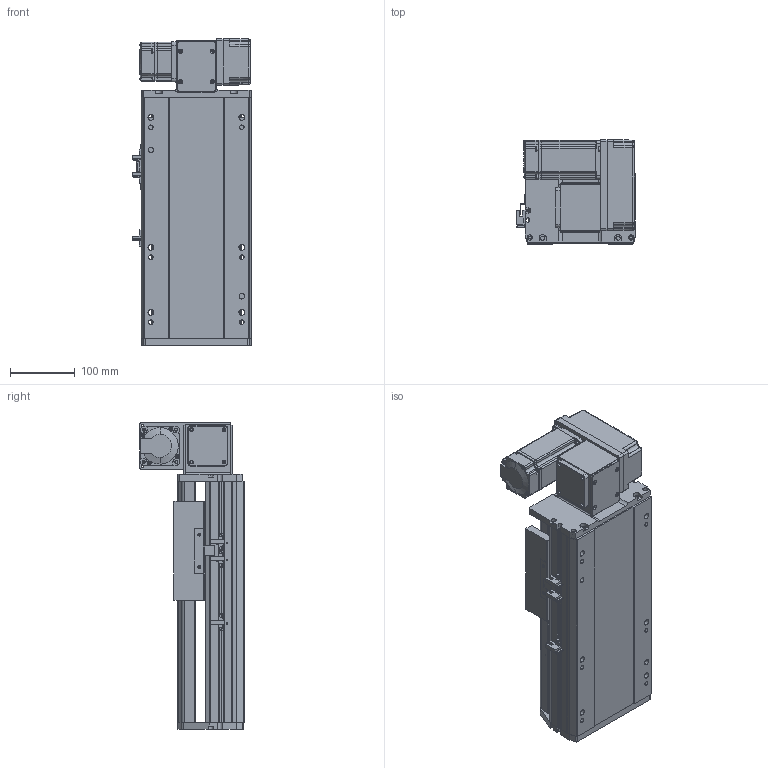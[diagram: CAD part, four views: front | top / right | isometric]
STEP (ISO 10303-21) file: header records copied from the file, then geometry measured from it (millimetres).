
FILE_DESCRIPTION (( 'STEP AP214' ), '1' );
FILE_NAME ('RTB17S-XX-100-RW-M40-C4.STEP', '2025-12-11T08:48:15', ( '' ), ( '' ), 'SwSTEP 2.0', 'SolidWorks 2018', '' );
FILE_SCHEMA (( 'AUTOMOTIVE_DESIGN' ));
Length unit declared in the file: millimetre
Products named in the file (14): RTH13-BL-012覜茼え俋离^RTB17S-XX-XX-RW-M40-C4; RTB17S-XX-100-RW-M40-C4; OMRON EE-SX672 传感器^RTB17S-XX-XX-RW-M40-C4; RTB14-L-017P^RTB17S-RW-々湍釱蚾饜-400W_RTB17S-XX-XX-RW-M40-C4; RTB17S-L-004佪裝蹟譫蟀諉釱^RTB17S-XX-XX-RW-M40-C4; RTB14-L-018P^RTB17S-RW-々湍釱蚾饜-400W_RTB17S-XX-XX-RW-M40-C4; 400W侜督萇儂^RTB17S-XX-XX-RW-M40-C4; RTB14-L-005P--轴承塑胶压盖^RTB17S-RW-皮带座装配-400W_RTB17S-XX-XX-RW-M40-C4; RTB14-L-008-M20--萇儂啣^RTB17S-RW-々湍釱蚾饜-400W_RTB17S-XX-XX-RW-M40-C4; RTB17S-L-001耜醱啣^RTB17S-XX-XX-RW-M40-C4; RTB17-R-011菁釱^RTB17S-XX-XX-RW-M40-C4; RMP17S-L-014-T20--々湍釱^RTB17S-RW-々湍釱蚾饜-400W_RTB17S-XX-XX-RW-M40-C4; RTB17S-L-007奻裔^RTB17S-XX-XX-RW-M40-C4; RTB17S-RW-々湍釱蚾饜-400W^RTB17S-XX-XX-RW-M40-C4
Assembly tree (16 placements, depth 3):
  RTB17S-XX-100-RW-M40-C4
    RTB17-R-011菁釱^RTB17S-XX-XX-RW-M40-C4
    RTB17S-L-007奻裔^RTB17S-XX-XX-RW-M40-C4
    OMRON EE-SX672 传感器^RTB17S-XX-XX-RW-M40-C4  x3
    RTB17S-L-001耜醱啣^RTB17S-XX-XX-RW-M40-C4
    400W侜督萇儂^RTB17S-XX-XX-RW-M40-C4
    RTB17S-L-004佪裝蹟譫蟀諉釱^RTB17S-XX-XX-RW-M40-C4
    RTH13-BL-012覜茼え俋离^RTB17S-XX-XX-RW-M40-C4
    RTB17S-RW-々湍釱蚾饜-400W^RTB17S-XX-XX-RW-M40-C4
      RMP17S-L-014-T20--々湍釱^RTB17S-RW-々湍釱蚾饜-400W_RTB17S-XX-XX-RW-M40-C4
      RTB14-L-005P--轴承塑胶压盖^RTB17S-RW-皮带座装配-400W_RTB17S-XX-XX-RW-M40-C4
      RTB14-L-008-M20--萇儂啣^RTB17S-RW-々湍釱蚾饜-400W_RTB17S-XX-XX-RW-M40-C4
      RTB14-L-017P^RTB17S-RW-々湍釱蚾饜-400W_RTB17S-XX-XX-RW-M40-C4  x2
      RTB14-L-018P^RTB17S-RW-々湍釱蚾饜-400W_RTB17S-XX-XX-RW-M40-C4
Bounding box: 183.5 x 160.5 x 472.5 mm (x, y, z)
Volume: 5032331.6 mm3; surface area: 698601.9 mm2
Topology: 15 solids, 15 shells, 2141 faces, 5871 edges, 3825 vertices
Faces by surface type: plane 1060, cylinder 633, bspline 301, cone 139, torus 8
Entity records: 59561 total; most frequent: CARTESIAN_POINT 16476, ORIENTED_EDGE 8586, DIRECTION 8036, EDGE_CURVE 4293, VERTEX_POINT 2813, AXIS2_PLACEMENT_3D 2743, LINE 2550, VECTOR 2550
